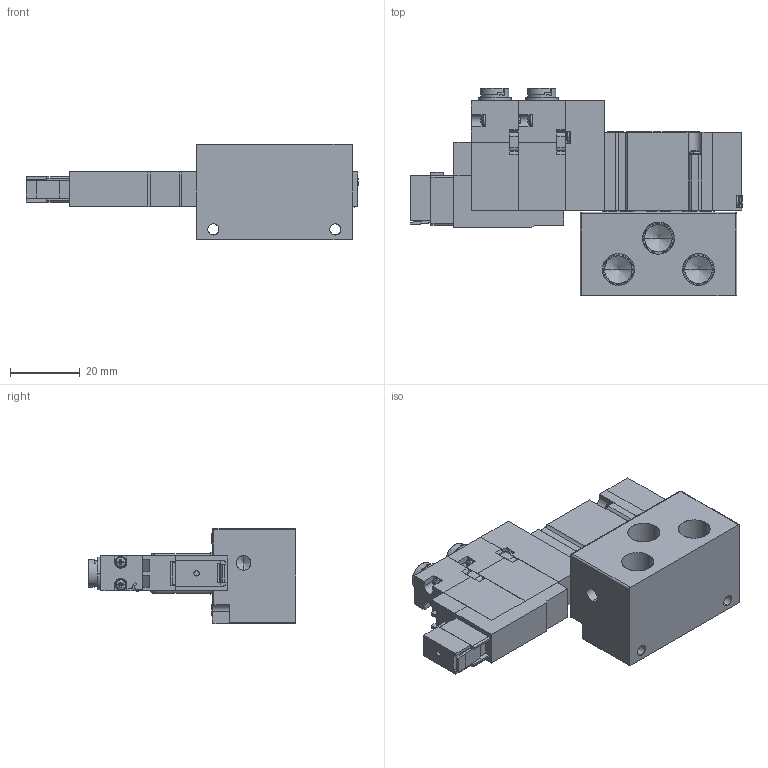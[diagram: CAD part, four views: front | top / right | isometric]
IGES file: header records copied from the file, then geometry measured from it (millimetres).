
Start section: SolidWorks IGES file using analytic representation for surfaces
Global section: file name: D:\Custom\3D繪製\ADEX\A05G\A05GD25-#-#-#-E.IGS,1; native system: 5HSolidWorks 2014; preprocessor: SolidWorks 2014; author: Chieh_Lu; date: 150809.151659; units: millimetre
Bounding box: 95.3 x 59.6 x 27.5 mm (x, y, z)
Surface area: 23300.5 mm2 (no closed solid volume)
Topology: 0 solids, 0 shells, 1101 faces, 9086 edges, 9050 vertices
Faces by surface type: bspline 757, revolution 344
